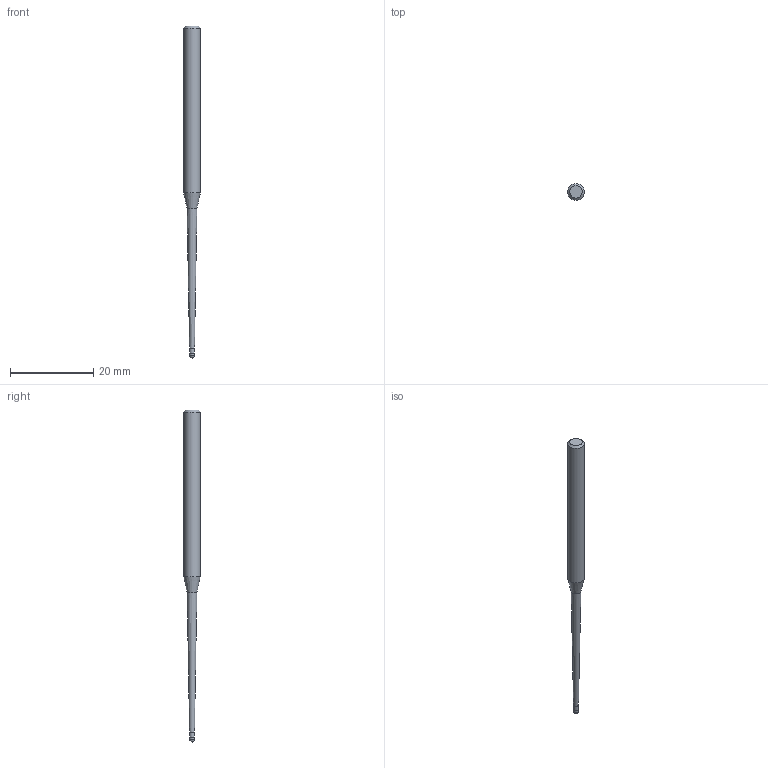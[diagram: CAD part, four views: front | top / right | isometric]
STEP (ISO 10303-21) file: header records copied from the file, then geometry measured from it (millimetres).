
FILE_DESCRIPTION((''),'2;1');
FILE_NAME('C:\Users\nsx150\AppData\Local\Temp\Mastercam 2021\SNAKH10GOD\TEMP.step','2021-10-21T13:32:35',(''),(''),'STEP Write','Mastercam 2021 ... CNC Software, Inc.','');
FILE_SCHEMA(('AUTOMOTIVE_DESIGN'));
Length unit declared in the file: millimetre
Products named in the file (1): None
Bounding box: 4 x 4 x 80 mm (x, y, z)
Volume: 623.4 mm3; surface area: 751.4 mm2
Topology: 2 solids, 2 shells, 10 faces, 16 edges, 9 vertices
Faces by surface type: plane 3, cylinder 3, cone 3, sphere 1
Full cylindrical faces by diameter (mm): 1.185 x1, 1.2 x1, 4 x1
Entity records: 232 total; most frequent: DIRECTION 40, CARTESIAN_POINT 28, AXIS2_PLACEMENT_3D 20, ORIENTED_EDGE 16, EDGE_LOOP 16, STYLED_ITEM 13, ADVANCED_FACE 10, FACE_BOUND 9
